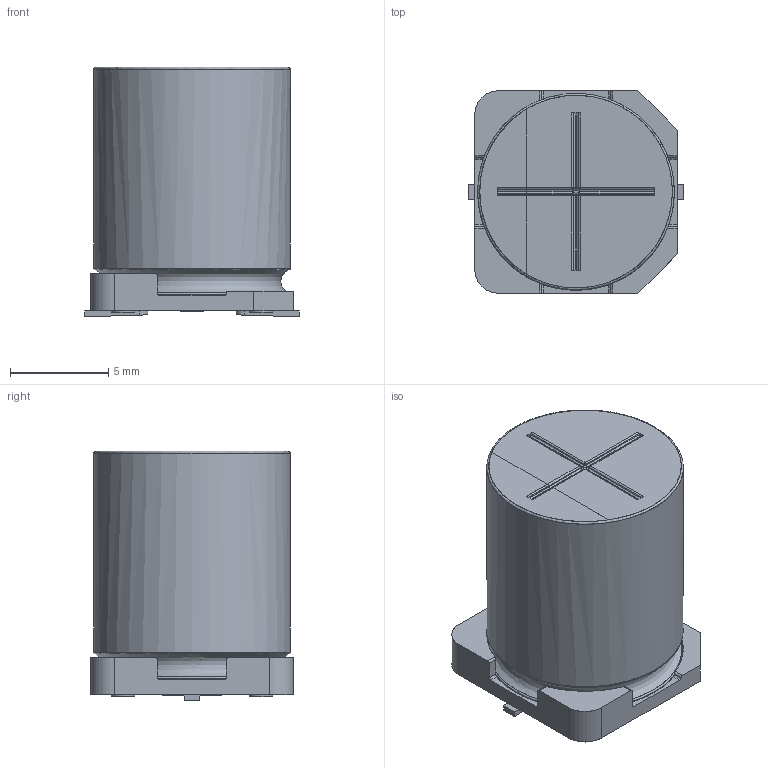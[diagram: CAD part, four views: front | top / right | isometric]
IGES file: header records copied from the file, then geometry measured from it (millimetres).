
Start section: JAMA-IS VERSION  1.0
Bounding box: 10.9 x 10.3 x 12.7 mm (x, y, z)
Surface area: 841.1 mm2 (no closed solid volume)
Topology: 0 solids, 0 shells, 134 faces, 1310 edges, 1290 vertices
Faces by surface type: bspline 134
